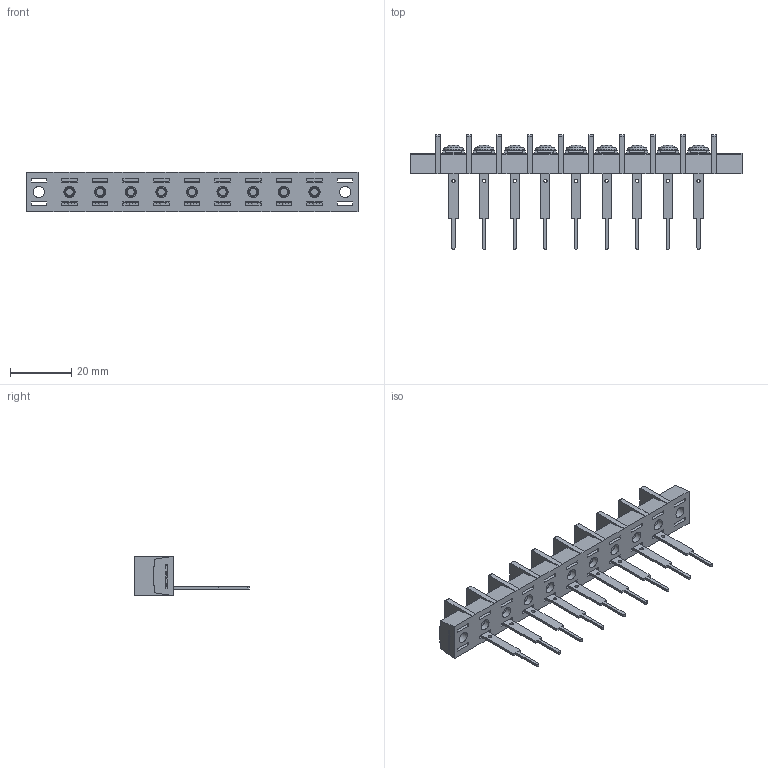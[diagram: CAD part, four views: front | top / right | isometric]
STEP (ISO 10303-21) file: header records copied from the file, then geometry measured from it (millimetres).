
FILE_DESCRIPTION(/* description */ ('Alibre Inc.'),/* implementation_level */ '2;1');
FILE_NAME(/* name */ 'export0',/* time_stamp */ '2015-10-22T20:29:11+09:00',/* author */ (''),/* organization */ (''),/* preprocessor_version */ 'ST-DEVELOPER v14',/* originating_system */ 'Alibre',/* authorisation */ '');
FILE_SCHEMA (('CONFIG_CONTROL_DESIGN'));
Length unit declared in the file: centimetre
Products named in the file (1): ID_1
Bounding box: 108.4 x 37.5 x 12.8 mm (x, y, z)
Volume: 9869 mm3; surface area: 12222.3 mm2
Topology: 1 solids, 154 shells, 2986 faces, 7681 edges, 5081 vertices
Faces by surface type: plane 2237, bspline 572, cylinder 105, cone 45, torus 18, sphere 9
Full cylindrical faces by diameter (mm): 1.1 x9, 3 x18, 3.7 x11, 4.6 x11, 6.3 x9
Entity records: 86412 total; most frequent: CARTESIAN_POINT 20782, ORIENTED_EDGE 15152, DIRECTION 9101, EDGE_CURVE 7576, VECTOR 5835, LINE 5835, VERTEX_POINT 5061, EDGE_LOOP 3305
